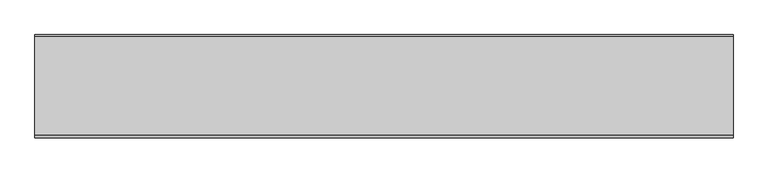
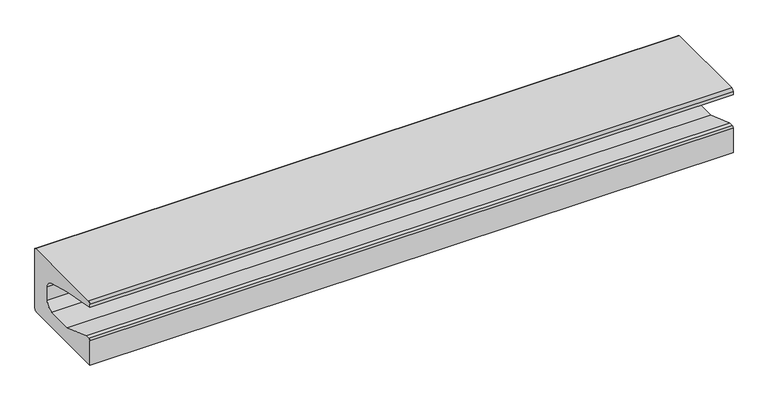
"""IFC4 building model written with IfcOpenShell, lengths in millimetres: proxy geometry, Muestra 2.01m RS951 : Muestra 2.01m RS951."""

import ifcopenshell
import ifcopenshell.guid

model = None  # the IFC model being written
_history = None  # IfcOwnerHistory: only IFC2X3 demands one
_inside = {}  # id of a spatial element -> (the spatial element, [elements in it])
_under = {}  # id of a project, library or spatial element -> (it, [spatial elements below it])
_declared = {}  # id of a project -> (the project, [libraries it declares])
_typed = {}  # id of a type object -> (the type object, [elements of that type])
_made_of = {}  # id of a material, layer set ... -> (it, [elements and type objects made of it])


def new_model(schema):
    """Start an empty IFC model of exactly this schema.

    Asked for "IFC4X3", IfcOpenShell would pick the latest addendum, in which some entities
    have other attributes; the version numbers below select the first issue.
    IFC2X3 requires an IfcOwnerHistory on every rooted entity: one is made here for all.
    """
    global model, _history
    if schema == "IFC4X3":
        model = ifcopenshell.file(schema_version=(4, 3, 0, 0))
    else:
        model = ifcopenshell.file(schema=schema)
    _inside.clear()
    _under.clear()
    _declared.clear()
    _typed.clear()
    _made_of.clear()
    _history = None
    if model.schema == "IFC2X3":
        org = make("IfcOrganization", Name="unknown")
        user = make(
            "IfcPersonAndOrganization",
            ThePerson=make("IfcPerson", FamilyName="unknown"),
            TheOrganization=org,
        )
        app = make(
            "IfcApplication",
            ApplicationDeveloper=org,
            Version="unknown",
            ApplicationFullName="unknown",
            ApplicationIdentifier="unknown",
        )
        _history = make(
            "IfcOwnerHistory",
            OwningUser=user,
            OwningApplication=app,
            ChangeAction="ADDED",
            CreationDate=0,
        )
    return model


def make(cls, **values):
    """One entity of the class cls with the attributes given. An attribute that is None is left unset."""
    return model.create_entity(
        cls, **{name: value for name, value in values.items() if value is not None}
    )


def rooted(cls, **values):
    """An entity with a GlobalId (a new one), such as an element, a storey or a relation."""
    return make(cls, GlobalId=ifcopenshell.guid.new(), OwnerHistory=_history, **values)


def si_unit(unit_type, name, prefix=None):
    """IfcSIUnit, for example si_unit("LENGTHUNIT", "METRE", prefix="MILLI")."""
    return make("IfcSIUnit", UnitType=unit_type, Prefix=prefix, Name=name)


def assignment(units):
    """IfcUnitAssignment: the units of a project."""
    return None if units is None else make("IfcUnitAssignment", Units=units)


def point(xyz):
    """IfcCartesianPoint."""
    return None if xyz is None else make("IfcCartesianPoint", Coordinates=xyz)


def direction(xyz):
    """IfcDirection."""
    return None if xyz is None else make("IfcDirection", DirectionRatios=xyz)


def frame(location, z_axis=None, x_axis=None):
    """IfcAxis2Placement3D, a coordinate frame: its origin and axes. An axis left out is left unset."""
    return make(
        "IfcAxis2Placement3D",
        Location=point(location),
        Axis=direction(z_axis),
        RefDirection=direction(x_axis),
    )


def frame_2d(location, x_axis=None):
    """IfcAxis2Placement2D, a coordinate frame in the plane: its origin and x axis."""
    return make(
        "IfcAxis2Placement2D", Location=point(location), RefDirection=direction(x_axis)
    )


def origin():
    """The frame at (0, 0, 0) with its axes left unset."""
    return frame((0.0, 0.0, 0.0))


def place(relative_to, where):
    """IfcLocalPlacement: puts the frame where relative to a parent placement (None: the world)."""
    return make(
        "IfcLocalPlacement", PlacementRelTo=relative_to, RelativePlacement=where
    )


def context(
    kind, dimensions, precision=None, world=None, true_north=None, identifier=None
):
    """IfcGeometricRepresentationContext, for example the 3D "Model" context."""
    return make(
        "IfcGeometricRepresentationContext",
        ContextIdentifier=identifier,
        ContextType=kind,
        CoordinateSpaceDimension=dimensions,
        Precision=precision,
        WorldCoordinateSystem=world,
        TrueNorth=true_north,
    )


def project(units=None, contexts=None):
    """IfcProject with its units and contexts."""
    return rooted(
        "IfcProject",
        Name="project",
        RepresentationContexts=contexts,
        UnitsInContext=assignment(units),
    )


def spatial(cls, under=None, at=None, **own):
    """A site, building, storey or space (cls), placed at a placement, below another one or the project."""
    s = rooted(cls, ObjectPlacement=at, **own)
    if under is not None:
        _under.setdefault(under.id(), (under, []))[1].append(s)
    return s


def polyline(points):
    """IfcPolyline through the points."""
    return make("IfcPolyline", Points=[point(p) for p in points])


def circle_curve(where, radius):
    """IfcCircle in the frame where."""
    return make("IfcCircle", Position=where, Radius=radius)


def trimmed(basis, trim1, trim2, sense, master):
    """IfcTrimmedCurve: the piece of a basis curve between two trims."""
    return make(
        "IfcTrimmedCurve",
        BasisCurve=basis,
        Trim1=trim1,
        Trim2=trim2,
        SenseAgreement=sense,
        MasterRepresentation=master,
    )


def segment(curve, same_sense, transition):
    """IfcCompositeCurveSegment."""
    return make(
        "IfcCompositeCurveSegment",
        Transition=transition,
        SameSense=same_sense,
        ParentCurve=curve,
    )


def composite_curve(segments, self_intersect=None):
    """IfcCompositeCurve: segments joined end to end."""
    return make("IfcCompositeCurve", Segments=segments, SelfIntersect=self_intersect)


def outline(outer, holes=None, kind="AREA"):
    """IfcArbitraryClosedProfileDef: a profile drawn as a closed curve; with holes, ...WithVoids."""
    if holes is None:
        return make("IfcArbitraryClosedProfileDef", ProfileType=kind, OuterCurve=outer)
    return make(
        "IfcArbitraryProfileDefWithVoids",
        ProfileType=kind,
        OuterCurve=outer,
        InnerCurves=holes,
    )


def extrude(swept, where, along, depth):
    """IfcExtrudedAreaSolid: the profile swept, set in the frame where, extruded along a direction by depth."""
    return make(
        "IfcExtrudedAreaSolid",
        SweptArea=swept,
        Position=where,
        ExtrudedDirection=direction(along),
        Depth=depth,
    )


def shape(context_of_items, identifier, shape_type, items):
    """IfcShapeRepresentation: the items that make up one representation, for example the "Body"."""
    return make(
        "IfcShapeRepresentation",
        ContextOfItems=context_of_items,
        RepresentationIdentifier=identifier,
        RepresentationType=shape_type,
        Items=items,
    )


def source(mapping_origin, context_of_items, identifier, shape_type, items):
    """IfcRepresentationMap: a shape defined once, which mapped items show again and again."""
    return make(
        "IfcRepresentationMap",
        MappingOrigin=mapping_origin,
        MappedRepresentation=shape(context_of_items, identifier, shape_type, items),
    )


def transform(
    local_origin,
    x_axis=None,
    y_axis=None,
    z_axis=None,
    scale=None,
    scale2=None,
    scale3=None,
    uniform=True,
):
    """IfcCartesianTransformationOperator3D, or its non-uniform kind. x_axis, y_axis, z_axis: its Axis1, 2, 3."""
    if uniform:
        return make(
            "IfcCartesianTransformationOperator3D",
            Axis1=direction(x_axis),
            Axis2=direction(y_axis),
            LocalOrigin=point(local_origin),
            Scale=scale,
            Axis3=direction(z_axis),
        )
    return make(
        "IfcCartesianTransformationOperator3DnonUniform",
        Axis1=direction(x_axis),
        Axis2=direction(y_axis),
        LocalOrigin=point(local_origin),
        Scale=scale,
        Axis3=direction(z_axis),
        Scale2=scale2,
        Scale3=scale3,
    )


def mapped(mapping_source, mapping_target):
    """IfcMappedItem: shows the shape of a source again, moved by a transform."""
    return make(
        "IfcMappedItem", MappingSource=mapping_source, MappingTarget=mapping_target
    )


def made_of(thing, what):
    """Note that an element or type object is made of a material, layer set ...; save() writes the relation."""
    if what is not None:
        _made_of.setdefault(what.id(), (what, []))[1].append(thing)
    return thing


def element(
    cls,
    number,
    at=None,
    inside=None,
    cuts=None,
    type_object=None,
    material=None,
    context=None,
    identifier="Body",
    shape_type=None,
    held_by="IfcProductDefinitionShape",
    body=None,
    shapes=None,
    **own,
):
    """One element of the class cls, such as IfcWall. Its Tag is "e" and its number.

    at: its placement. inside: the storey or other place that contains it. cuts: it is an
    opening in that element (IfcRelVoidsElement). A single representation is given by context,
    identifier, shape_type and body (its items); several are given by shapes. held_by: the class
    of the entity that holds the representations. save() writes the other relations.
    """
    e = rooted(cls, Tag="e%d" % number, ObjectPlacement=at, **own)
    if body is not None:
        shapes = [shape(context, identifier, shape_type, body)]
    if shapes is not None:
        e.Representation = make(held_by, Representations=shapes)
    if inside is not None:
        _inside.setdefault(inside.id(), (inside, []))[1].append(e)
    if cuts is not None:
        rooted(
            "IfcRelVoidsElement", RelatingBuildingElement=cuts, RelatedOpeningElement=e
        )
    if type_object is not None:
        _typed.setdefault(type_object.id(), (type_object, []))[1].append(e)
    return made_of(e, material)


def aggregate(whole, parts):
    """IfcRelAggregates: a whole, such as a stair, and the parts it consists of."""
    return rooted("IfcRelAggregates", RelatingObject=whole, RelatedObjects=parts)


def save(model, path):
    """Write the relations noted so far, then the file.

    IfcRelAggregates (storeys below a building ...), IfcRelContainedInSpatialStructure (elements
    in a storey), IfcRelDefinesByType, IfcRelAssociatesMaterial and IfcRelDeclares: one each for
    every whole, place, type object, material and project.
    """
    for whole, parts in _under.values():
        aggregate(whole, parts)
    for where, things in _inside.values():
        rooted(
            "IfcRelContainedInSpatialStructure",
            RelatedElements=things,
            RelatingStructure=where,
        )
    for kind, things in _typed.values():
        rooted("IfcRelDefinesByType", RelatedObjects=things, RelatingType=kind)
    for what, things in _made_of.values():
        rooted("IfcRelAssociatesMaterial", RelatedObjects=things, RelatingMaterial=what)
    for by, libraries in _declared.values():
        rooted("IfcRelDeclares", RelatingContext=by, RelatedDefinitions=libraries)
    model.write(path)


def generic_models_d2bb3819(model_context):
    return source(origin(), model_context, "Body", "SweptSolid", [
        extrude(outline(composite_curve([segment(polyline([(25851.2646304, 218.2775772), (26135.1650246, 218.2775772)]), True, "CONTINUOUS"), segment(trimmed(circle_curve(frame_2d((26135.4779734, 213.297208)), 4.9901918), [point((26135.1650246, 218.2775772))], [point((26140.4681555, 213.2873902))], False, "CARTESIAN"), True, "CONTINUOUS"), segment(polyline([(26140.4681555, 213.2873902), (26140.4681555, 20.0)]), True, "CONTINUOUS"), segment(trimmed(circle_curve(frame_2d((26130.4681555, 20.0)), 10.0), [point((26140.4681555, 20.0))], [point((26130.4681555, 10.0))], False, "CARTESIAN"), True, "CONTINUOUS"), segment(polyline([(26130.4681555, 10.0), (25843.26464, 10.0), (25843.26464, 90.0094288)]), True, "CONTINUOUS"), segment(trimmed(circle_curve(frame_2d((25848.26464, 90.0094288)), 5.0), [point((25843.26464, 90.0094288))], [point((25848.26464, 95.0094288))], False, "CARTESIAN"), True, "CONTINUOUS"), segment(polyline([(25848.26464, 95.0094288), (25861.4681652, 95.0094288), (25964.5406042, 60.0838698), (26048.3245733, 60.0838698)]), True, "CONTINUOUS"), segment(trimmed(circle_curve(frame_2d((26048.5107529, 84.8382752)), 24.7551055), [point((26048.3245733, 60.0838698))], [point((26073.26464, 85.0838698))], True, "CARTESIAN"), True, "CONTINUOUS"), segment(polyline([(26073.26464, 85.0838698), (26073.26464, 128.9393377)]), True, "CONTINUOUS"), segment(trimmed(circle_curve(frame_2d((26048.5107529, 129.1849323)), 24.7551055), [point((26073.26464, 128.9393377))], [point((26055.1709498, 153.0272691))], True, "CARTESIAN"), True, "CONTINUOUS"), segment(polyline([(26055.1709498, 153.0272691), (25964.7441293, 178.287395), (25843.2646304, 200.0838698), (25843.2646304, 210.2775772)]), True, "CONTINUOUS"), segment(trimmed(circle_curve(frame_2d((25851.2646304, 210.2775772)), 8.0), [point((25843.2646304, 210.2775772))], [point((25851.2646304, 218.2775772))], False, "CARTESIAN"), True, "CONTINUOUS")], self_intersect=False)), frame((133973.8734194, 0.0, 0.0), z_axis=(1.0, 0.0, 0.0), x_axis=(0.0, 1.0, 0.0)), (0.0, 0.0, 1.0), 2010.0),
    ])


if __name__ == "__main__":
    model = new_model("IFC4")
    model_context = context("Model", 3, world=origin())
    ifc_project = project(units=[si_unit("LENGTHUNIT", "METRE", prefix="MILLI")], contexts=[model_context])
    site = spatial("IfcSite", under=ifc_project)
    building = spatial("IfcBuilding", under=site)
    placement = place(None, origin())
    generic_models_shape = generic_models_d2bb3819(model_context)
    element("IfcBuildingElementProxy", 1, Name="Muestra 2.01m RS951 : Muestra 2.01m RS951", ObjectType="Muestra 2.01m RS951 : Muestra 2.01m RS951", at=placement, inside=building, context=model_context, shape_type="MappedRepresentation", body=[
        mapped(generic_models_shape, transform((0.0, 0.0, 0.0), x_axis=(1.0, 0.0, 0.0), y_axis=(0.0, 1.0, 0.0), z_axis=(0.0, 0.0, 1.0))),
    ])
    save(model, "model.ifc")
